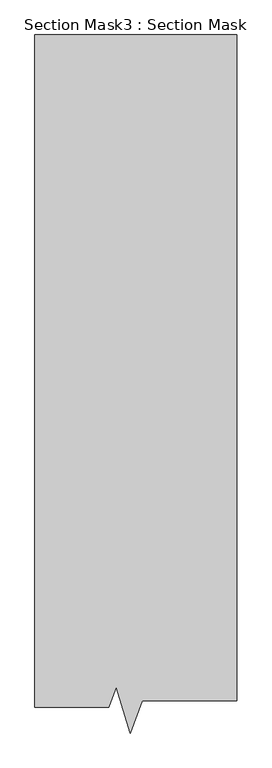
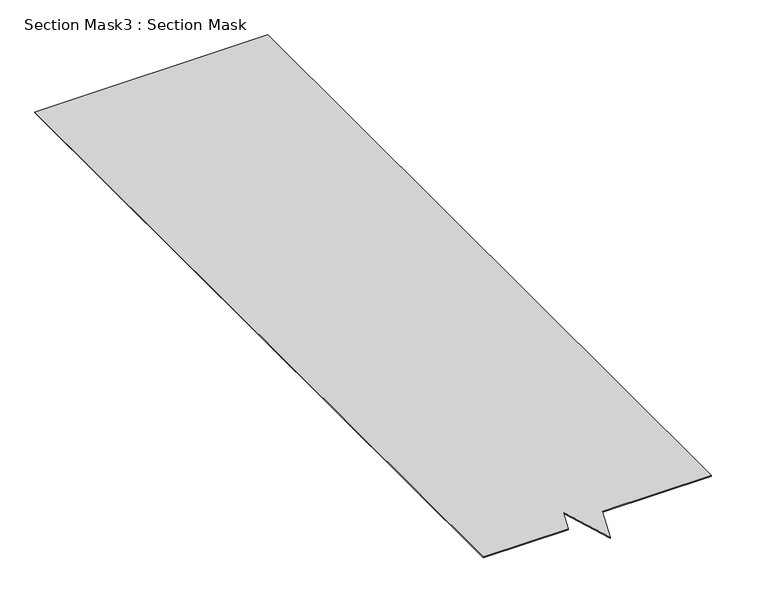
"""IFC4 building model written with IfcOpenShell, lengths in millimetres: proxy geometry, Section Mask3 : Section Mask."""

from ifc_helpers import new_model, si_unit, frame, origin, place, context, project, spatial, polyline, outline, extrude, source, transform, mapped, element, save


def section_mask3_section_mask_319a9473(model_context):
    return source(origin(), model_context, "Body", "SweptSolid", [
        extrude(outline(polyline([(480.280417, -301.0796171), (255.0940969, -301.0796171), (255.0940969, 1754.1332024), (871.6884704, 1754.1332024), (871.6884704, -280.2311456), (582.9143176, -280.2311456), (546.2974609, -379.3939873), (503.2973565, -238.7469831), (480.280417, -301.0796171)])), frame((0.0, 0.0, 51.3773345), z_axis=(0.0, 0.0, 1.0), x_axis=(1.0, 0.0, 0.0)), (0.0, 0.0, 1.0), 2.5976655),
    ])


if __name__ == "__main__":
    model = new_model("IFC4")
    model_context = context("Model", 3, world=origin())
    ifc_project = project(units=[si_unit("LENGTHUNIT", "METRE", prefix="MILLI")], contexts=[model_context])
    site = spatial("IfcSite", under=ifc_project)
    building = spatial("IfcBuilding", under=site)
    placement = place(None, origin())
    section_mask3_section_mask_shape = section_mask3_section_mask_319a9473(model_context)
    element("IfcBuildingElementProxy", 1, Name="Section Mask3 : Section Mask", ObjectType="Section Mask3 : Section Mask", at=placement, inside=building, context=model_context, shape_type="MappedRepresentation", body=[
        mapped(section_mask3_section_mask_shape, transform((0.0, 0.0, 0.0), x_axis=(1.0, 0.0, 0.0), y_axis=(0.0, 1.0, 0.0), z_axis=(0.0, 0.0, 1.0))),
    ])
    save(model, "model.ifc")
